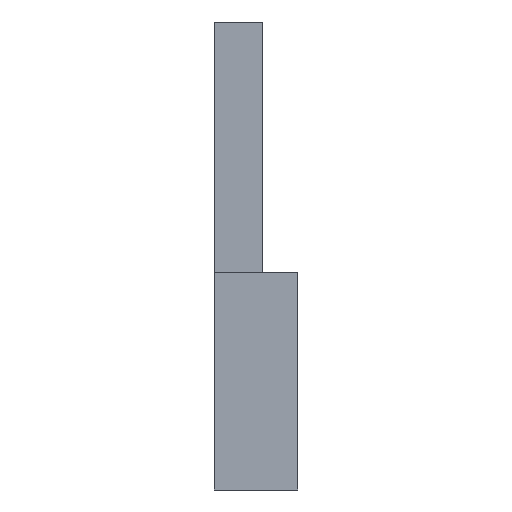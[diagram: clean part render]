
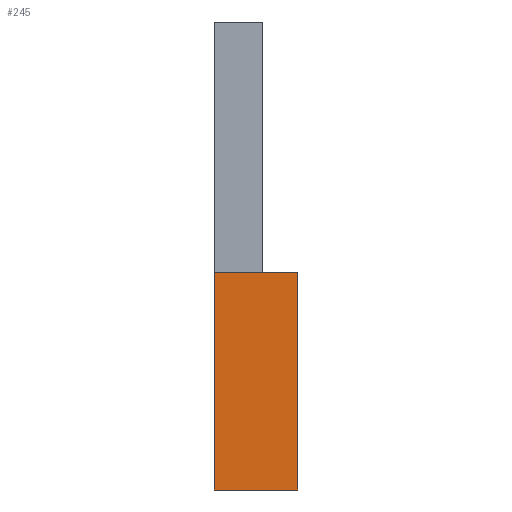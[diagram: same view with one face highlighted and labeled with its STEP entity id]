
A CAD part, left-side view. The second image highlights one B-rep face of the part: STEP entity #245.
In plain terms, the highlighted planar face has unit normal (-1, 0, 0).
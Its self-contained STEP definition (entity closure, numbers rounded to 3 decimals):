
#16=PLANE('',#276);
#35=FACE_OUTER_BOUND('',#51,.T.);
#51=EDGE_LOOP('',(#188,#189,#190,#191));
#66=LINE('',#365,#89);
#69=LINE('',#480,#92);
#72=LINE('',#486,#95);
#73=LINE('',#487,#96);
#89=VECTOR('',#299,10.);
#92=VECTOR('',#308,10.);
#95=VECTOR('',#313,10.);
#96=VECTOR('',#314,10.);
#121=VERTEX_POINT('',#362);
#122=VERTEX_POINT('',#364);
#129=VERTEX_POINT('',#479);
#131=VERTEX_POINT('',#485);
#143=EDGE_CURVE('',#122,#121,#66,.T.);
#151=EDGE_CURVE('',#122,#129,#69,.T.);
#154=EDGE_CURVE('',#121,#131,#72,.T.);
#155=EDGE_CURVE('',#129,#131,#73,.T.);
#188=ORIENTED_EDGE('',*,*,#143,.T.);
#189=ORIENTED_EDGE('',*,*,#154,.T.);
#190=ORIENTED_EDGE('',*,*,#155,.F.);
#191=ORIENTED_EDGE('',*,*,#151,.F.);
#245=ADVANCED_FACE('',(#35),#16,.T.);
#276=AXIS2_PLACEMENT_3D('',#484,#311,#312);
#299=DIRECTION('',(0.,0.,1.));
#308=DIRECTION('',(0.,1.,0.));
#311=DIRECTION('center_axis',(-1.,0.,0.));
#312=DIRECTION('ref_axis',(0.,0.,1.));
#313=DIRECTION('',(0.,1.,0.));
#314=DIRECTION('',(0.,0.,1.));
#362=CARTESIAN_POINT('',(-15.,42.267,34.9));
#364=CARTESIAN_POINT('',(-15.,42.267,20.4));
#365=CARTESIAN_POINT('',(-15.,42.267,-4.5));
#479=CARTESIAN_POINT('',(-15.,47.85,20.4));
#480=CARTESIAN_POINT('',(-15.,44.85,20.4));
#484=CARTESIAN_POINT('Origin',(-15.,44.85,20.4));
#485=CARTESIAN_POINT('',(-15.,47.85,34.9));
#486=CARTESIAN_POINT('',(-15.,44.85,34.9));
#487=CARTESIAN_POINT('',(-15.,47.85,19.9));
